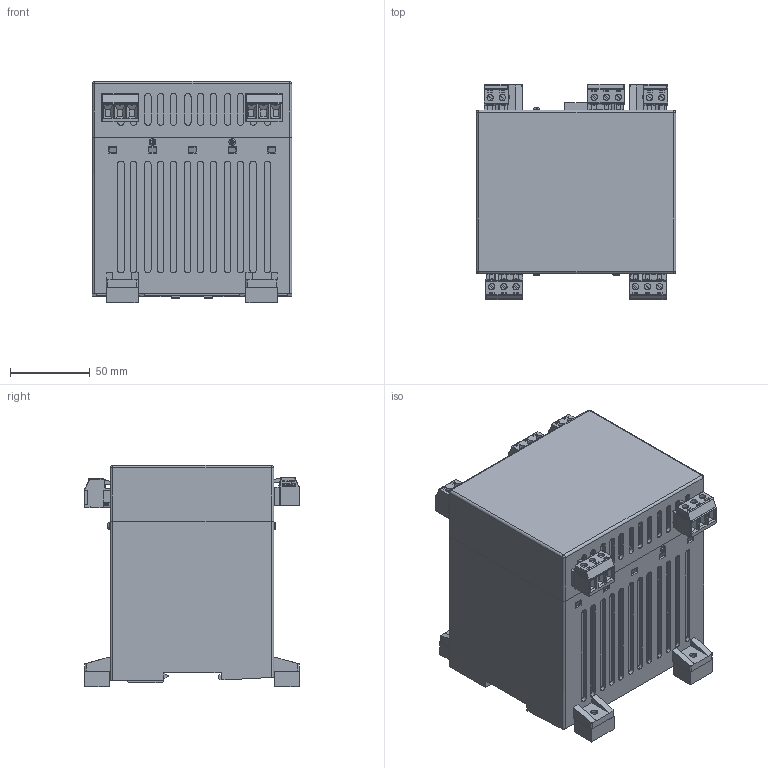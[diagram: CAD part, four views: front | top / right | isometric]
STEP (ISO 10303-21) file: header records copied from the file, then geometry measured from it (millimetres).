
FILE_DESCRIPTION(/* description */ ('','CAx-IF Rec.Pracs.---Representation and Presentation of Product Manufacturing Information (PMI)---4.0---2014-10-13'),/* implementation_level */ '2;1');
FILE_NAME(/* name */ 'AL125 v3.step',/* time_stamp */ '2025-03-13T11:35:16+01:00',/* author */ (''),/* organization */ (''),/* preprocessor_version */ 'ST-DEVELOPER v20',/* originating_system */ 'Autodesk Translation Framework v13.20.0.188',/* authorisation */ '');
FILE_SCHEMA (('AP242_MANAGED_MODEL_BASED_3D_ENGINEERING_MIM_LF { 1 0 10303 442 1 1 4 }'));
Products named in the file (47): AL125; 2023_03_31_06_42_01_0974; CM125-LG_H_35_BO_DB_GH_BK; PCB_CM125-LG_H_35_BO_DB; PCB_8; PCB_9; PCB_7; CM125-LG_H_35; CM125-LG_H..._BO_DB_GH_BK; CM_GDH.2; schraub_blech_b2.2x9.5.1; 2023_03_31_06_42_01_0974_1; 2023_03_31_06_42_01_0974_2; 2023_03_31_06_42_02_0786; 2023_03_31_06_42_02_0771; 2023_03_31_06_42_02_0755; 2023_03_31_06_42_02_0740; 2023_03_31_06_42_02_0724; 2023_03_31_06_42_02_0708; 2023_03_31_06_42_02_0693; 2023_03_31_06_42_02_0677; 2023_03_31_06_42_02_0661; 2023_03_31_06_42_02_0646; 2023_03_31_06_42_02_0630; 2023_03_31_06_42_02_0615; 2023_03_31_06_42_02_0599; 2023_03_31_06_42_02_0583; 2023_03_31_06_42_02_0568; 2023_03_31_06_42_02_0490; 2023_03_31_06_42_01_0974_3; 2023_03_31_06_42_01_0974_4; 2023_03_31_06_42_02_0786_1; 2023_03_31_06_42_02_0771_1; 2023_03_31_06_42_02_0755_1; 2023_03_31_06_42_02_0740_1; 2023_03_31_06_42_02_0724_1; 2023_03_31_06_42_02_0708_1; 2023_03_31_06_42_02_0693_1; 2023_03_31_06_42_02_0677_1; 2023_03_31_06_42_02_0661_1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
Assembly tree (105 placements, depth 4):
  AL125
    2023_03_31_06_42_01_0974
      2023_03_31_06_42_02_0786
      2023_03_31_06_42_02_0771
      2023_03_31_06_42_02_0755
      2023_03_31_06_42_02_0740
      2023_03_31_06_42_02_0724
      2023_03_31_06_42_02_0708
      2023_03_31_06_42_02_0693
      2023_03_31_06_42_02_0677
      2023_03_31_06_42_02_0661
      2023_03_31_06_42_02_0646
      2023_03_31_06_42_02_0630
      2023_03_31_06_42_02_0615
      2023_03_31_06_42_02_0599
      2023_03_31_06_42_02_0583
      2023_03_31_06_42_02_0568
      2023_03_31_06_42_02_0490
    CM125-LG_H_35_BO_DB_GH_BK
      PCB_CM125-LG_H_35_BO_DB
        PCB_8  x3
        PCB_9  x3
        PCB_7  x2
      CM125-LG_H_35
      CM_GDH.2  x4
      schraub_blech_b2.2x9.5.1  x4
      CM125-LG_H..._BO_DB_GH_BK
    2023_03_31_06_42_01_0974_1
      2023_03_31_06_42_02_0786_1
      2023_03_31_06_42_02_0771_1
      2023_03_31_06_42_02_0755_1
      2023_03_31_06_42_02_0740_1
      2023_03_31_06_42_02_0724_1
      2023_03_31_06_42_02_0708_1
      2023_03_31_06_42_02_0693_1
      2023_03_31_06_42_02_0677_1
      2023_03_31_06_42_02_0661_1
      2023_03_31_06_42_02_0646_1
      2023_03_31_06_42_02_0630_1
      2023_03_31_06_42_02_0615_1
      2023_03_31_06_42_02_0599_1
      2023_03_31_06_42_02_0583_1
      2023_03_31_06_42_02_0568_1
      2023_03_31_06_42_02_0490_1
    2023_03_31_06_42_01_0974_2
      2023_03_31_06_42_02_0786
      2023_03_31_06_42_02_0771
      2023_03_31_06_42_02_0755
      2023_03_31_06_42_02_0740
      2023_03_31_06_42_02_0724
      2023_03_31_06_42_02_0708
      2023_03_31_06_42_02_0693
      2023_03_31_06_42_02_0677
      2023_03_31_06_42_02_0661
      2023_03_31_06_42_02_0646
      2023_03_31_06_42_02_0630
      2023_03_31_06_42_02_0615
      2023_03_31_06_42_02_0599
      2023_03_31_06_42_02_0583
      2023_03_31_06_42_02_0568
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Bounding box: 125 x 135.25 x 138.7 mm (x, y, z)
Volume: 402647.3 mm3; surface area: 436489.1 mm2
Topology: 62 solids, 62 shells, 5525 faces, 15273 edges, 10136 vertices
Faces by surface type: plane 4541, cylinder 715, bspline 191, sphere 30, cone 28, torus 20
Full cylindrical faces by diameter (mm): 1.5 x4, 1.6 x32, 2.2 x32, 2.4 x4, 3 x39, 3.812 x13, 4 x17, 4.5 x8
Entity records: 95463 total; most frequent: CARTESIAN_POINT 21677, ORIENTED_EDGE 15408, DIRECTION 14316, EDGE_CURVE 7704, LINE 6610, VECTOR 6610, VERTEX_POINT 5115, AXIS2_PLACEMENT_3D 3853
